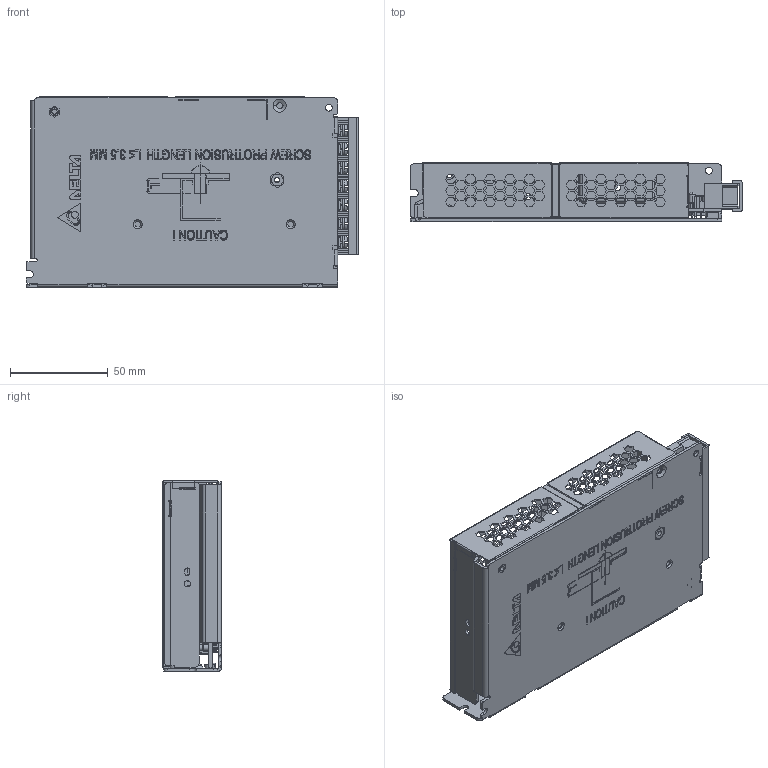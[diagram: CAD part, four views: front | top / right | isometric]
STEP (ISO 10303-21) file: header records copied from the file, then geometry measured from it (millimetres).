
FILE_DESCRIPTION((''),'2;1');
FILE_NAME('PMH-24V150WCLV_ASM','2018-03-13T',('Warud'),(''),'PRO/ENGINEER BY PARAMETRIC TECHNOLOGY CORPORATION, 2010180','PRO/ENGINEER BY PARAMETRIC TECHNOLOGY CORPORATION, 2010180','');
FILE_SCHEMA(('CONFIG_CONTROL_DESIGN','SHAPE_APPEARANCE_LAYERS_GROUPS'));
Products named in the file (16): 330336630102_A_BODY; 330336630102_A_STUD6-32; 330336630102_A_S0-M3-48-ZI; 330336630102_ASM; 330336620000; 3263670900; PWB_MAINBOARD; 307049907W_BODY; TERM_T24-E03107A301_SCREW; 307049907W_COVER; 307049907W_ASM; EE_VR131; EE_LED370; 312330170000_LED-HOLDER; ASSY_PWB-MAINBOARD_ASM; PMH-24V150WCLV_ASM
Assembly tree (21 placements, depth 4):
  PMH-24V150WCLV_ASM
    330336630102_ASM
      330336630102_A_BODY
      330336630102_A_STUD6-32
      330336630102_A_S0-M3-48-ZI
    330336620000
    3263670900
    ASSY_PWB-MAINBOARD_ASM
      PWB_MAINBOARD
      307049907W_ASM
        307049907W_BODY
        TERM_T24-E03107A301_SCREW  x7
        307049907W_COVER
      EE_VR131
      EE_LED370
      312330170000_LED-HOLDER
Bounding box: 169.4 x 30.1 x 97 mm (x, y, z)
Volume: 74404.8 mm3; surface area: 121011.1 mm2
Topology: 18 solids, 18 shells, 6131 faces, 17330 edges, 11127 vertices
Faces by surface type: plane 4917, cylinder 495, extrusion 376, bspline 244, cone 69, torus 30
Entity records: 233128 total; most frequent: CARTESIAN_POINT 38689, ORIENTED_EDGE 31412, DIRECTION 26197, PRESENTATION_STYLE_ASSIGNMENT 15991, EDGE_CURVE 15706, STYLED_ITEM 15658, CURVE_STYLE 15646, VECTOR 14347
